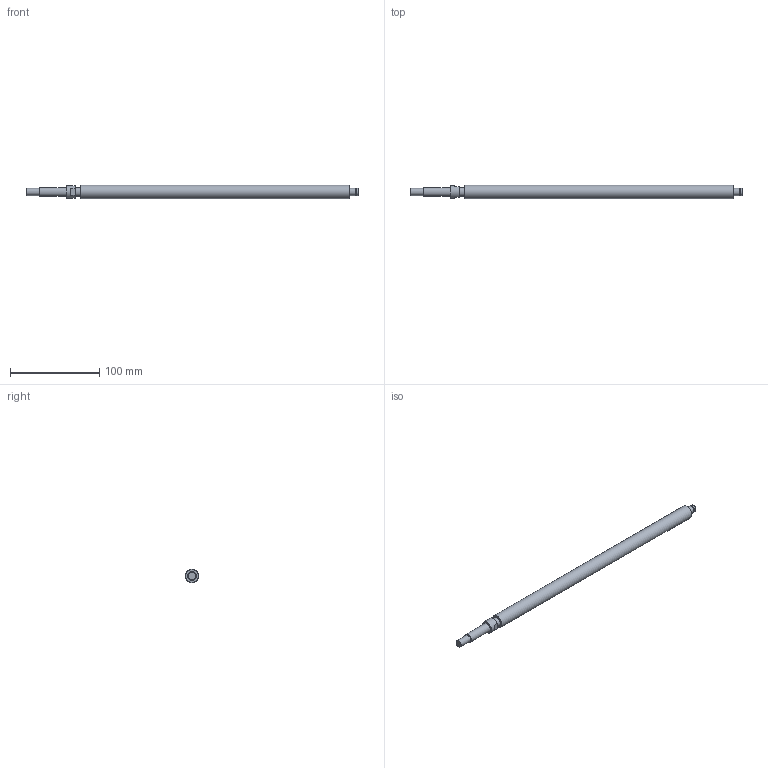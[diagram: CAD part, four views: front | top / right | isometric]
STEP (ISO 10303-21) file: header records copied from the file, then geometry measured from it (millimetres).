
FILE_DESCRIPTION((''),'2;1');
FILE_NAME('D:\製品 (図面)\カタログ用3D\ネジ関連\STEP形式\JK\JK15(SUH10用).stp','2010-06-11T10:47:29',('Tsuchiya'),(''),'Autodesk Inventor 10','Autodesk Inventor 10','');
FILE_SCHEMA(('AUTOMOTIVE_DESIGN { 1 0 10303 214 1 1 1 1 }'));
Length unit declared in the file: millimetre
Products named in the file (1): JK15(SUH10用)
Bounding box: 371 x 15 x 15 mm (x, y, z)
Volume: 58584.6 mm3; surface area: 16845.5 mm2
Topology: 1 solids, 1 shells, 21 faces, 36 edges, 24 vertices
Faces by surface type: plane 13, cylinder 8
Full cylindrical faces by diameter (mm): 7.6 x1, 8 x3, 10 x2, 14 x1, 15 x1
Entity records: 483 total; most frequent: DIRECTION 90, CARTESIAN_POINT 72, ORIENTED_EDGE 54, AXIS2_PLACEMENT_3D 41, EDGE_LOOP 36, EDGE_CURVE 27, VERTEX_POINT 23, FACE_OUTER_BOUND 21
